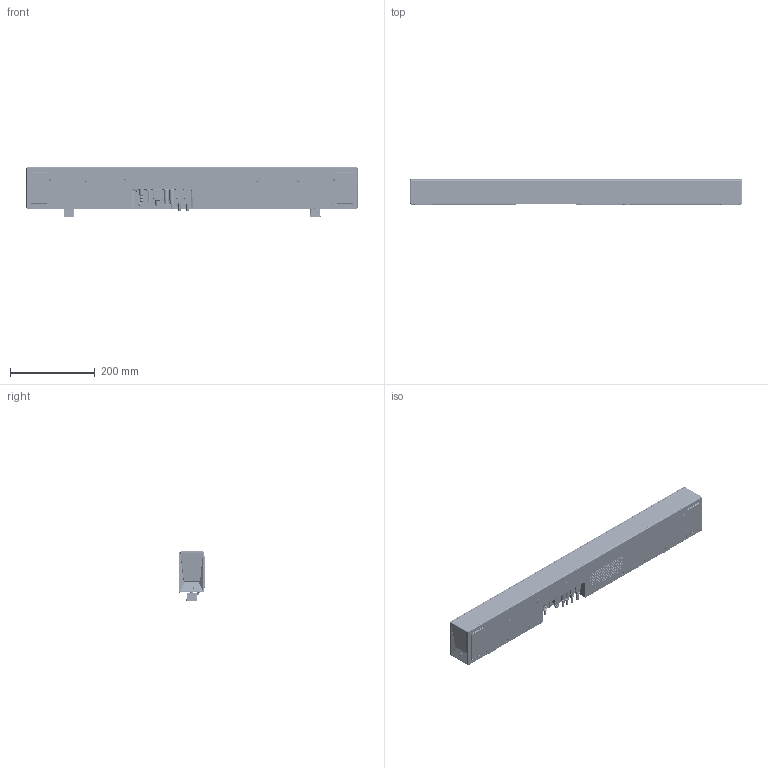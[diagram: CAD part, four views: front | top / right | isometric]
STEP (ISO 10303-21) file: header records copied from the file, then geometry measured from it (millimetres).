
FILE_DESCRIPTION((''),'2;1');
FILE_NAME('INKEL_BAR_730_ASM','2020-08-08T',('G6003023'),(''),'PRO/ENGINEER BY PARAMETRIC TECHNOLOGY CORPORATION, 2013150','PRO/ENGINEER BY PARAMETRIC TECHNOLOGY CORPORATION, 2013150','');
FILE_SCHEMA(('CONFIG_CONTROL_DESIGN'));
Products named in the file (238): FRAME_NET_UA300_67_1; FABRIC_UA300_11_1; LENS_LED_GOOGLE_ASSISTANT_UA300; LENS_LED_NUGU_AI_UA300_9_1; LENS_LED_STATUS_UA300_3_1; HOLDER_GRILL_UA300_9_1; LED_PCB_35_2_1; LED_EVERLIGHT_R6GHY5C_1_1_1_2_4; LP5024-DRIVER-IC_2_1_2_2_1; LP5036-DRIVER-IC_1_1_2_2_1; HS6108E-8PIN-VERTICAL_3_1_2_2_1; IR_RECEIVER_4_1_2_1; LED_PCB_ASSY_ASM_66_ASM_1_ASM_1_ASM; LED_PCB_ASSY_20200723_ASM_1_ASM_ASM; SCREW_TTS_3_7_3_1; GRILL_ASSY_UA300_ASM_38_ASM_1_ASM; PCB_SIDE_LED_2_1; SOCKET_SIDE_LED_2_1; LIGHT_PIPE_SIDE_LED_4_1; LED_EVERLIGHT_R6GHY5C_1_1_1_1_1; SCREW_TTS_3_10_1_1; CONTACT-574_2_3_1_1; HOUSING-DOUBLE-LATCH_3_3_1_1; CAP-OUSHU-013-0004-7102_3_3_1_1; ASM-WITH-CAP_ASM_ASM-8PINS_ASM__ASM; HSM1081-L1200-9H_ASM_3_ASM_1_AS_ASM; HS6208E-LH_3D_2_2_1; PCBA_SIDE_LED_ASM_7_ASM_1_ASM; PLATE_LOGO_RIGHT_BTV_UA300_16_1; C3X__B_TV_0706_2_1; DECO_SIDE_UA300_74_1; ADHESIVE_DOUBLE_BTV_RIGHT_UA300; SIDE_DECO_ASSY_UA300_ASM_20_ASM_ASM; CASE_BOTTOM_UA300_165_1; CASE_TOP_UA300_56_1; BUTTON_FUNCTION_UA300_48_1; BUTTON_PCB_16_1_1; TACT_SWITCH_3_1_1_1; MSBR-13-001_1_1_2_1_1; MSBR-12-001_1_1_2_1_1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
Assembly tree (523 placements, depth 8):
  INKEL_BAR_730_ASM
    BFX_UA300_ASM_MOCKUP_REV02_ASM__ASM
      BFX_UA300_ASM_285_ASM_1_ASM
        GRILL_ASSY_UA300_ASM_38_ASM_1_ASM
          FRAME_NET_UA300_67_1
          FABRIC_UA300_11_1
          LENS_LED_GOOGLE_ASSISTANT_UA300
          LENS_LED_NUGU_AI_UA300_9_1
          LENS_LED_STATUS_UA300_3_1
          HOLDER_GRILL_UA300_9_1  x16
          LED_PCB_ASSY_20200723_ASM_1_ASM_ASM
            LED_PCB_ASSY_ASM_66_ASM_1_ASM_1_ASM
              LED_PCB_35_2_1
              LED_EVERLIGHT_R6GHY5C_1_1_1_2_4  x26
              LP5024-DRIVER-IC_2_1_2_2_1
              LP5036-DRIVER-IC_1_1_2_2_1  x2
              HS6108E-8PIN-VERTICAL_3_1_2_2_1  x3
              IR_RECEIVER_4_1_2_1
          SCREW_TTS_3_7_3_1  x6
        PCBA_SIDE_LED_ASM_7_ASM_1_ASM
          PCB_SIDE_LED_2_1
          SOCKET_SIDE_LED_2_1
          LIGHT_PIPE_SIDE_LED_4_1
          LED_EVERLIGHT_R6GHY5C_1_1_1_1_1  x2
          SCREW_TTS_3_10_1_1  x2
          HSM1081-L1200-9H_ASM_3_ASM_1_AS_ASM
            ASM-WITH-CAP_ASM_ASM-8PINS_ASM__ASM
              CONTACT-574_2_3_1_1  x8
              HOUSING-DOUBLE-LATCH_3_3_1_1
              CAP-OUSHU-013-0004-7102_3_3_1_1
          HS6208E-LH_3D_2_2_1
        SIDE_DECO_ASSY_UA300_ASM_20_ASM_ASM
          PLATE_LOGO_RIGHT_BTV_UA300_16_1
          C3X__B_TV_0706_2_1
          DECO_SIDE_UA300_74_1
          ADHESIVE_DOUBLE_BTV_RIGHT_UA300
        CASE_BOTTOM_UA300_165_1
        CASE_TOP_ASSY_UA300_ASM_48_ASM__ASM
          CASE_TOP_UA300_56_1
          BUTTON_FUNCTION_UA300_48_1
          BUTTON_PCB_ASSY_20200720_ASM_1__ASM
            BUTTON_PCB_ASSY_ASM_12_ASM_1_AS_ASM
              BUTTON_PCB_16_1_1
              TACT_SWITCH_3_1_1_1  x8
              HS6110E-10PIN_ASM_2_1_2_ASM_1_A_ASM
                MSBR-13-001_1_1_2_1_1
                MSBR-12-001_1_1_2_1_1
                MSBR-11-001_1_1_2_1_1
                MSBR-10-001_1_1_2_1_1
                MSBR-9-001_1_1_2_1_1
                MSBR-8-001_1_1_2_1_1
                MSBR-7-001_1_1_2_1_1
                MSBR-6-001_1_1_2_1_1
                MSBR-5-001_1_1_2_1_1
                MSBR-4-001_1_1_2_1_1
                MSBR-3-001_1_1_2_1_1
                MSBR-2-001_1_1_2_1_1
                MSBR-1-001_1_1_2_1_1
          SCREW_TTS_3_7_3_1  x11
          SCREW_TTS_3_10_1_1  x3
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Bounding box: 781.4 x 62.8 x 115.61 mm (x, y, z)
Volume: 1324691.1 mm3; surface area: 1425537.1 mm2
Topology: 535 solids, 623 shells, 48103 faces, 133934 edges, 88264 vertices
Faces by surface type: plane 30487, cylinder 13567, bspline 2014, cone 1080, torus 588, extrusion 189, sphere 178
Entity records: 912625 total; most frequent: CARTESIAN_POINT 246601, ORIENTED_EDGE 140934, DIRECTION 133826, EDGE_CURVE 70467, VECTOR 48410, LINE 48259, VERTEX_POINT 46318, AXIS2_PLACEMENT_3D 42708
